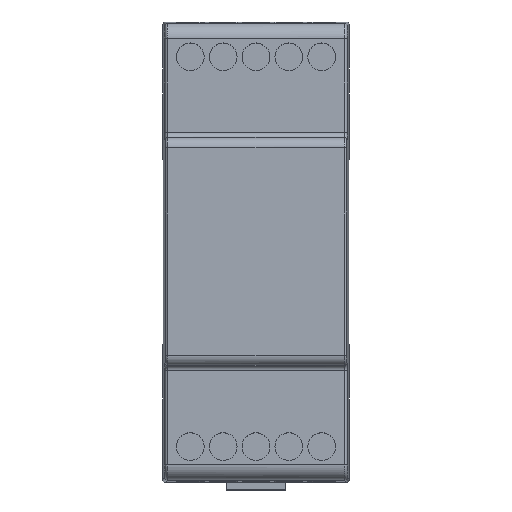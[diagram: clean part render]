
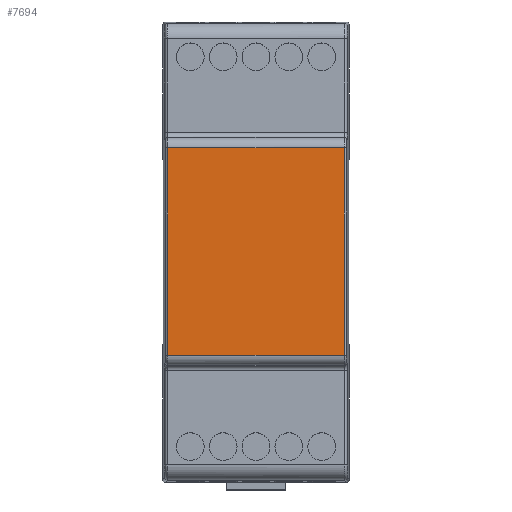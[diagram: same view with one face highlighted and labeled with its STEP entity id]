
A CAD part, top view. The second image highlights one B-rep face of the part: STEP entity #7694.
In plain terms, the highlighted planar face has unit normal (0, 0, 1).
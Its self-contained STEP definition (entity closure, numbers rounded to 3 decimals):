
#90 = CARTESIAN_POINT ( 'NONE',  ( 35.819, 67.532, 60. ) ) ;
#278 = LINE ( 'NONE', #2790, #4530 ) ;
#313 = DIRECTION ( 'NONE',  ( 1., 0., 0. ) ) ;
#422 = CARTESIAN_POINT ( 'NONE',  ( 35.819, 67.532, 60. ) ) ;
#994 = VERTEX_POINT ( 'NONE', #1523 ) ;
#1458 = CARTESIAN_POINT ( 'NONE',  ( 0.515, 67.532, 60. ) ) ;
#1492 = ORIENTED_EDGE ( 'NONE', *, *, #7949, .T. ) ;
#1523 = CARTESIAN_POINT ( 'NONE',  ( 1.01, 67.532, 60. ) ) ;
#1696 = EDGE_LOOP ( 'NONE', ( #3877, #2997, #1492, #4478 ) ) ;
#1785 = DIRECTION ( 'NONE',  ( 0., 1., 0. ) ) ;
#2713 = CARTESIAN_POINT ( 'NONE',  ( 1.01, 26.515, 60. ) ) ;
#2790 = CARTESIAN_POINT ( 'NONE',  ( 1.01, 69.515, 60. ) ) ;
#2943 = FACE_OUTER_BOUND ( 'NONE', #1696, .T. ) ;
#2981 = VECTOR ( 'NONE', #1785, 1000. ) ;
#2997 = ORIENTED_EDGE ( 'NONE', *, *, #7108, .T. ) ;
#3218 = LINE ( 'NONE', #90, #2981 ) ;
#3395 = LINE ( 'NONE', #1458, #4824 ) ;
#3565 = CARTESIAN_POINT ( 'NONE',  ( 0.515, 69.515, 60. ) ) ;
#3877 = ORIENTED_EDGE ( 'NONE', *, *, #5531, .T. ) ;
#4291 = AXIS2_PLACEMENT_3D ( 'NONE', #3565, #4843, #6075 ) ;
#4478 = ORIENTED_EDGE ( 'NONE', *, *, #6508, .T. ) ;
#4530 = VECTOR ( 'NONE', #5289, 1000. ) ;
#4824 = VECTOR ( 'NONE', #5909, 1000. ) ;
#4843 = DIRECTION ( 'NONE',  ( 0., 0., -1. ) ) ;
#4936 = VERTEX_POINT ( 'NONE', #6564 ) ;
#5289 = DIRECTION ( 'NONE',  ( 0., -1., 0. ) ) ;
#5531 = EDGE_CURVE ( 'NONE', #7596, #4936, #7103, .T. ) ;
#5909 = DIRECTION ( 'NONE',  ( -1., 0., 0. ) ) ;
#6075 = DIRECTION ( 'NONE',  ( 0., -1., 0. ) ) ;
#6508 = EDGE_CURVE ( 'NONE', #994, #7596, #278, .T. ) ;
#6564 = CARTESIAN_POINT ( 'NONE',  ( 35.819, 26.515, 60. ) ) ;
#7103 = LINE ( 'NONE', #7824, #7161 ) ;
#7108 = EDGE_CURVE ( 'NONE', #4936, #8023, #3218, .T. ) ;
#7161 = VECTOR ( 'NONE', #313, 1000. ) ;
#7189 = PLANE ( 'NONE',  #4291 ) ;
#7596 = VERTEX_POINT ( 'NONE', #2713 ) ;
#7694 = ADVANCED_FACE ( 'NONE', ( #2943 ), #7189, .F. ) ;
#7824 = CARTESIAN_POINT ( 'NONE',  ( 0.515, 26.515, 60. ) ) ;
#7949 = EDGE_CURVE ( 'NONE', #8023, #994, #3395, .T. ) ;
#8023 = VERTEX_POINT ( 'NONE', #422 ) ;
